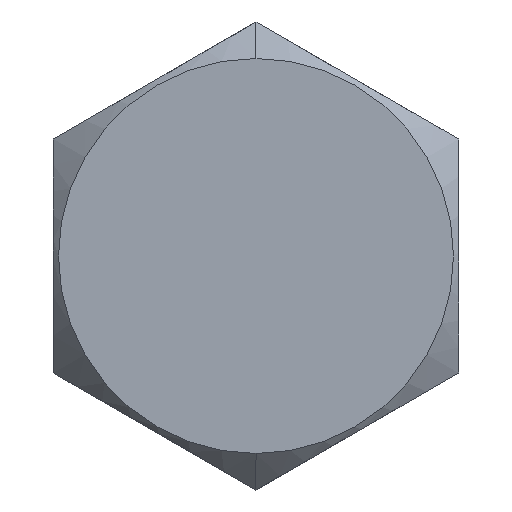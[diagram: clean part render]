
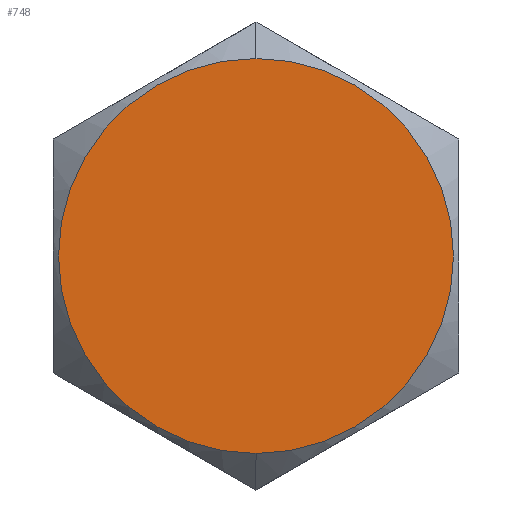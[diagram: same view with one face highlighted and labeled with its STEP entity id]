
A CAD part, left-side view. The second image highlights one B-rep face of the part: STEP entity #748.
In plain terms, the highlighted planar face has unit normal (-1, 0, 0).
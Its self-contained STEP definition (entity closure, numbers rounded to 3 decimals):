
#14 = DIRECTION ( 'NONE',  ( 1., 0., 0. ) ) ;
#61 = AXIS2_PLACEMENT_3D ( 'NONE', #546, #410, #613 ) ;
#83 = EDGE_LOOP ( 'NONE', ( #199, #553 ) ) ;
#111 = FACE_OUTER_BOUND ( 'NONE', #83, .T. ) ;
#119 = CIRCLE ( 'NONE', #737, 4.874 ) ;
#188 = VERTEX_POINT ( 'NONE', #471 ) ;
#199 = ORIENTED_EDGE ( 'NONE', *, *, #277, .F. ) ;
#277 = EDGE_CURVE ( 'NONE', #625, #188, #707, .T. ) ;
#293 = PLANE ( 'NONE',  #61 ) ;
#327 = DIRECTION ( 'NONE',  ( 0., 0., -1. ) ) ;
#389 = DIRECTION ( 'NONE',  ( 0., 0., -1. ) ) ;
#391 = CARTESIAN_POINT ( 'NONE',  ( 0., 0., -4.874 ) ) ;
#410 = DIRECTION ( 'NONE',  ( 1., 0., 0. ) ) ;
#471 = CARTESIAN_POINT ( 'NONE',  ( 0., 0., 4.874 ) ) ;
#540 = AXIS2_PLACEMENT_3D ( 'NONE', #771, #591, #327 ) ;
#546 = CARTESIAN_POINT ( 'NONE',  ( 0., 0., 0. ) ) ;
#553 = ORIENTED_EDGE ( 'NONE', *, *, #665, .F. ) ;
#578 = CARTESIAN_POINT ( 'NONE',  ( 0., 0., 0. ) ) ;
#591 = DIRECTION ( 'NONE',  ( 1., 0., 0. ) ) ;
#613 = DIRECTION ( 'NONE',  ( 0., 0., -1. ) ) ;
#625 = VERTEX_POINT ( 'NONE', #391 ) ;
#665 = EDGE_CURVE ( 'NONE', #188, #625, #119, .T. ) ;
#707 = CIRCLE ( 'NONE', #540, 4.874 ) ;
#737 = AXIS2_PLACEMENT_3D ( 'NONE', #578, #14, #389 ) ;
#748 = ADVANCED_FACE ( 'NONE', ( #111 ), #293, .F. ) ;
#771 = CARTESIAN_POINT ( 'NONE',  ( 0., 0., 0. ) ) ;
